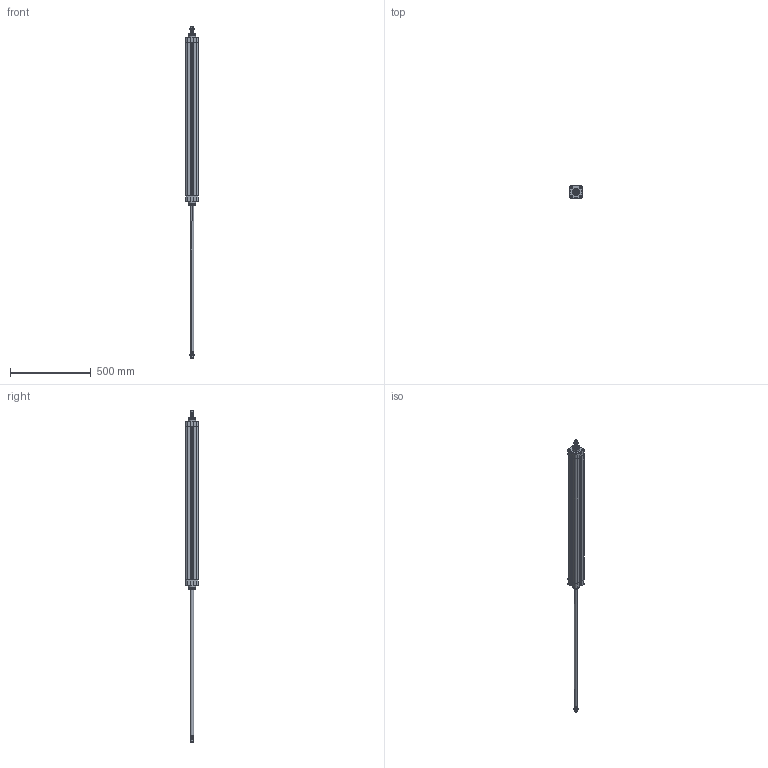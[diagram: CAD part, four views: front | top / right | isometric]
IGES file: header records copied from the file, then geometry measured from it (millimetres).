
Global section: file name: No Iges File Name specified; native system: Autodesk Inventor 2010; preprocessor: AutoDesk Inventor Iges Exporter R2010; author: rivolro1; date: 20090707.105835; units: millimetre
Bounding box: 77.5 x 77.5 x 2059 mm (x, y, z)
Volume: 3711645.4 mm3; surface area: 748843.9 mm2
Topology: 6 solids, 6 shells, 343 faces, 810 edges, 508 vertices
Faces by surface type: plane 137, bspline 86, cylinder 58, cone 38, revolution 20, torus 4
